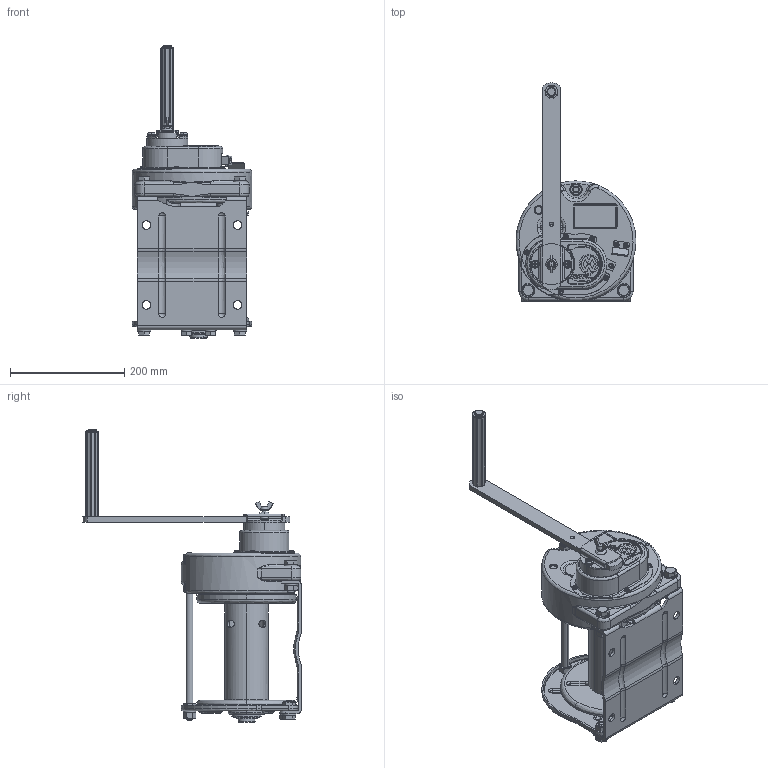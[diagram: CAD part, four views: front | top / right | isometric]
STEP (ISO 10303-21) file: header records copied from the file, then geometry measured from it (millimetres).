
FILE_DESCRIPTION( (''), '2;1');
FILE_NAME ('SB-10.stp','2024-01-09T10:45:24',(''),(''),'spGate 19.8.2 (****-****-****-****)','','');
FILE_SCHEMA (('AUTOMOTIVE_DESIGN'));
Length unit declared in the file: millimetre
Products named in the file (3): Assembly; SB-10-prt0; SB-10-prt1
Assembly tree (2 placements, depth 2):
  Assembly
    SB-10-prt0
    SB-10-prt1
Bounding box: 209.96 x 382.43 x 513.1 mm (x, y, z)
Volume: 3968790.9 mm3; surface area: 688998 mm2
Topology: 2 solids, 2 shells, 2596 faces, 6645 edges, 4152 vertices
Faces by surface type: plane 1234, cylinder 839, bspline 459, sphere 64
Entity records: 141967 total; most frequent: CARTESIAN_POINT 27702, ORIENTED_EDGE 13186, DIRECTION 12659, COLOUR_RGB 9191, PRESENTATION_STYLE_ASSIGNMENT 9191, STYLED_ITEM 9191, EDGE_CURVE 6593, DRAUGHTING_PRE_DEFINED_CURVE_FONT 6593
